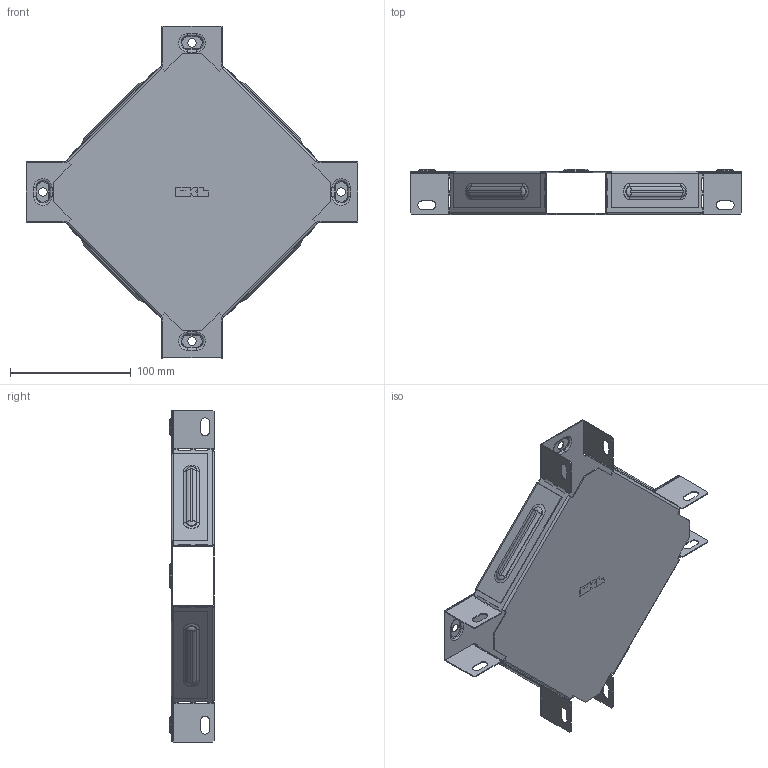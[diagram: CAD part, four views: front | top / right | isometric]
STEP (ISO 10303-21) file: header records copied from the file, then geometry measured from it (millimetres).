
FILE_DESCRIPTION (( 'STEP AP214' ), '1' );
FILE_NAME ('x355008_捘.STEP', '2019-06-10T07:12:46', ( '砐錪賧瘔蠈錪 Windows' ), ( '' ), 'SwSTEP 2.0', 'SolidWorks 2018', '' );
FILE_SCHEMA (( 'AUTOMOTIVE_DESIGN' ));
Length unit declared in the file: millimetre
Products named in the file (1): x355008_捘
Bounding box: 275.01 x 37.4 x 275.01 mm (x, y, z)
Volume: 83705.3 mm3; surface area: 212071.7 mm2
Topology: 2 solids, 2 shells, 692 faces, 1940 edges, 1256 vertices
Faces by surface type: plane 374, cylinder 204, torus 96, bspline 18
Entity records: 23187 total; most frequent: CARTESIAN_POINT 4847, ORIENTED_EDGE 3880, DIRECTION 3806, EDGE_CURVE 1940, VECTOR 1352, LINE 1352, VERTEX_POINT 1256, AXIS2_PLACEMENT_3D 1227
